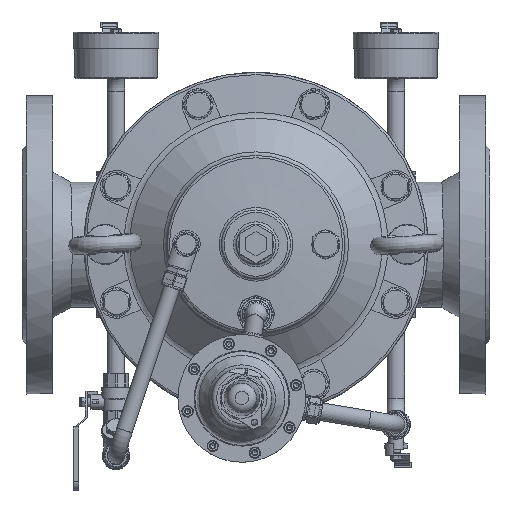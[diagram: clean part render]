
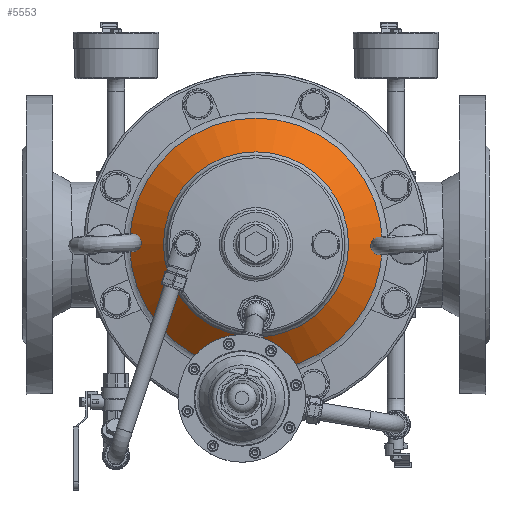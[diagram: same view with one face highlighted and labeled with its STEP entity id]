
A CAD part, top view. The second image highlights one B-rep face of the part: STEP entity #5553.
In plain terms, the highlighted conical face has half-angle 50.433 degrees and reference radius 67.855 mm.
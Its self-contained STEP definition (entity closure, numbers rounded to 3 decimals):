
#5553=ADVANCED_FACE('',(#18812,#18814),#18816,.T.);
#18812=FACE_OUTER_BOUND('',#18813,.T.);
#18813=EDGE_LOOP('',(#42510));
#18814=FACE_OUTER_BOUND('',#18815,.T.);
#18815=EDGE_LOOP('',(#42511));
#18816=CONICAL_SURFACE('',#18817,67.855,0.88);
#18817=AXIS2_PLACEMENT_3D('',#18818,#18819,#18820);
#18818=CARTESIAN_POINT('',(0.,-18.596,0.));
#18819=DIRECTION('',(0.,1.,0.));
#18820=DIRECTION('',(-1.,0.,0.));
#42510=ORIENTED_EDGE('',*,*,#49328,.F.);
#42511=ORIENTED_EDGE('',*,*,#49314,.F.);
#49314=EDGE_CURVE('',#54193,#54193,#54194,.T.);
#49328=EDGE_CURVE('',#54221,#54221,#54222,.F.);
#54193=VERTEX_POINT('',#76889);
#54194=CIRCLE('',#76890,57.382);
#54221=VERTEX_POINT('',#76959);
#54222=CIRCLE('',#76960,78.327);
#76889=CARTESIAN_POINT('',(57.382,-27.249,0.));
#76890=AXIS2_PLACEMENT_3D('',#76891,#76892,#76893);
#76891=CARTESIAN_POINT('',(0.,-27.249,0.));
#76892=DIRECTION('',(0.,-1.,0.));
#76893=DIRECTION('',(1.,0.,0.));
#76959=CARTESIAN_POINT('',(78.327,-9.942,0.));
#76960=AXIS2_PLACEMENT_3D('',#76961,#76962,#76963);
#76961=CARTESIAN_POINT('',(0.,-9.942,0.));
#76962=DIRECTION('',(0.,-1.,0.));
#76963=DIRECTION('',(1.,0.,0.));
